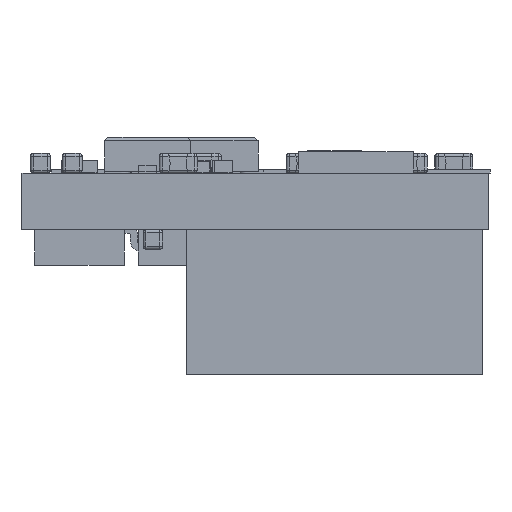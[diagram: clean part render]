
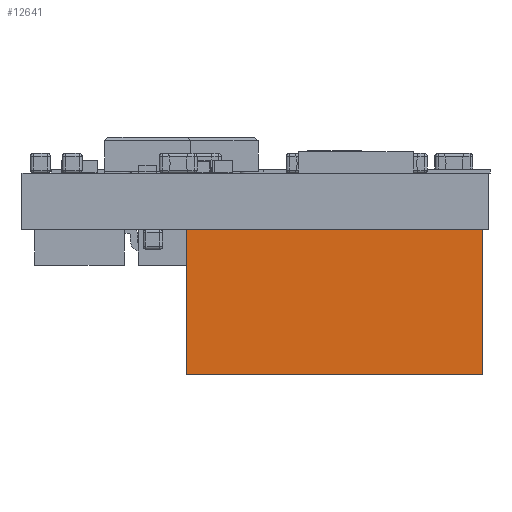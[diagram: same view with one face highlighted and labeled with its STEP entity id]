
A CAD part, left-side view. The second image highlights one B-rep face of the part: STEP entity #12641.
In plain terms, the highlighted planar face has unit normal (-1, 0, 0) as drawn and (0, 1, 0) by its records, which use the part's own axes.
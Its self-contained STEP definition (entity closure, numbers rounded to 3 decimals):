
#1368=PLANE('',#13752);
#1991=FACE_OUTER_BOUND('',#2806,.T.);
#2806=EDGE_LOOP('',(#10415,#10416,#10417,#10418));
#3645=LINE('',#21088,#4733);
#3651=LINE('',#21100,#4739);
#3654=LINE('',#21105,#4742);
#3655=LINE('',#21107,#4743);
#4733=VECTOR('',#15996,10.);
#4739=VECTOR('',#16004,10.);
#4742=VECTOR('',#16011,10.);
#4743=VECTOR('',#16014,10.);
#6222=VERTEX_POINT('',#21085);
#6223=VERTEX_POINT('',#21087);
#6225=VERTEX_POINT('',#21093);
#6228=VERTEX_POINT('',#21098);
#7716=EDGE_CURVE('',#6222,#6223,#3645,.T.);
#7722=EDGE_CURVE('',#6228,#6225,#3651,.T.);
#7725=EDGE_CURVE('',#6223,#6228,#3654,.T.);
#7726=EDGE_CURVE('',#6222,#6225,#3655,.T.);
#10415=ORIENTED_EDGE('',*,*,#7726,.T.);
#10416=ORIENTED_EDGE('',*,*,#7722,.F.);
#10417=ORIENTED_EDGE('',*,*,#7725,.F.);
#10418=ORIENTED_EDGE('',*,*,#7716,.F.);
#12641=ADVANCED_FACE('',(#1991),#1368,.F.);
#13752=AXIS2_PLACEMENT_3D('',#21106,#16012,#16013);
#15996=DIRECTION('',(-1.,0.,0.));
#16004=DIRECTION('',(1.,0.,0.));
#16011=DIRECTION('',(0.,0.,-1.));
#16012=DIRECTION('center_axis',(0.,-1.,0.));
#16013=DIRECTION('ref_axis',(0.,0.,-1.));
#16014=DIRECTION('',(0.,0.,-1.));
#21085=CARTESIAN_POINT('',(4.125,2.125,4.05));
#21087=CARTESIAN_POINT('',(-4.125,2.125,4.05));
#21088=CARTESIAN_POINT('',(0.,2.125,4.05));
#21093=CARTESIAN_POINT('',(4.125,2.125,0.));
#21098=CARTESIAN_POINT('',(-4.125,2.125,0.));
#21100=CARTESIAN_POINT('',(0.,2.125,0.));
#21105=CARTESIAN_POINT('',(-4.125,2.125,2.025));
#21106=CARTESIAN_POINT('Origin',(0.,2.125,
2.025));
#21107=CARTESIAN_POINT('',(4.125,2.125,2.025));
